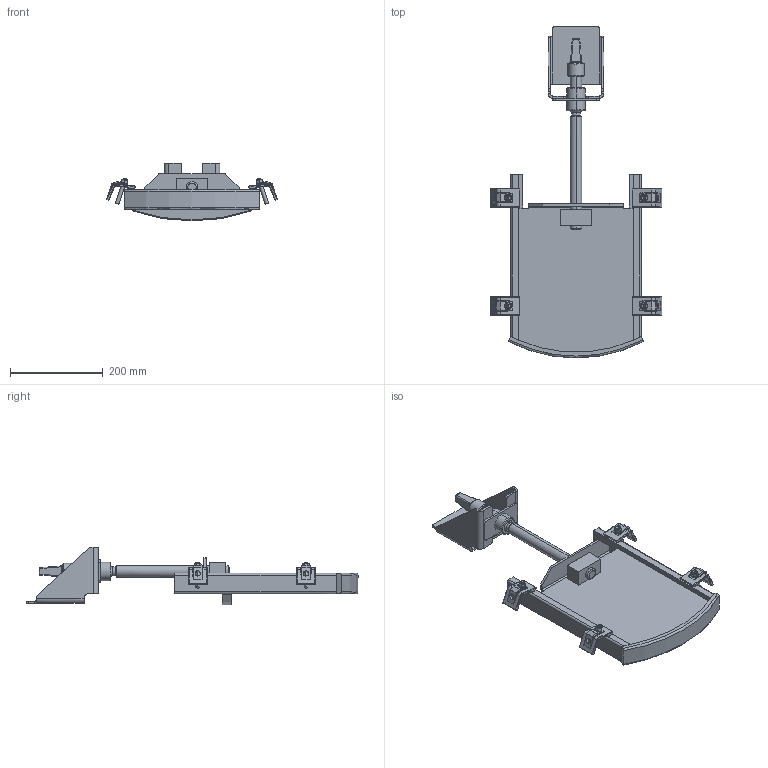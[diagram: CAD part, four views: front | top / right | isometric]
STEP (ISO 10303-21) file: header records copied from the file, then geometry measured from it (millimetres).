
FILE_DESCRIPTION (( 'STEP AP214' ), '1' );
FILE_NAME ('LW 200 Schacht800 betoniert.STEP', '2022-05-19T09:15:57', ( '' ), ( '' ), 'SwSTEP 2.0', 'SolidWorks 2021', '' );
FILE_SCHEMA (( 'AUTOMOTIVE_DESIGN' ));
Length unit declared in the file: millimetre
Products named in the file (1): LW 200 Schacht800 betoniert
Bounding box: 369.26 x 715 x 124.19 mm (x, y, z)
Volume: 1891264.5 mm3; surface area: 529041.5 mm2
Topology: 1 solids, 5 shells, 777 faces, 1836 edges, 1034 vertices
Faces by surface type: cylinder 301, plane 244, cone 62, sphere 60, torus 56, bspline 54
Entity records: 32469 total; most frequent: CARTESIAN_POINT 6730, DIRECTION 3694, ORIENTED_EDGE 3552, EDGE_CURVE 1776, AXIS2_PLACEMENT_3D 1450, VERTEX_POINT 1026, EDGE_LOOP 824, LINE 794
